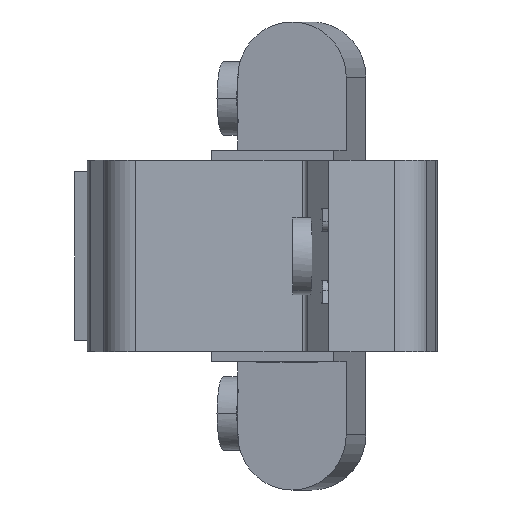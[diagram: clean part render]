
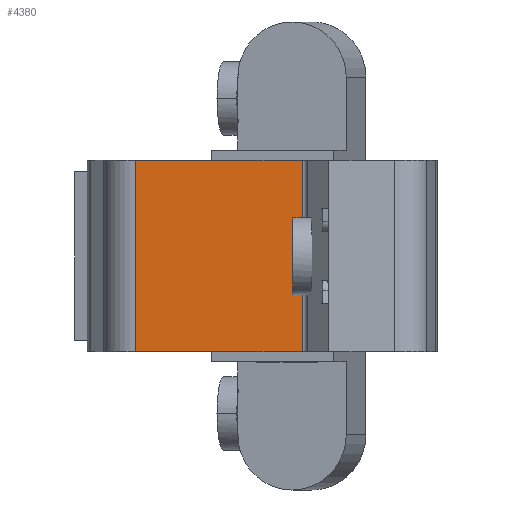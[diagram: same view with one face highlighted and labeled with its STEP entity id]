
A CAD part, left-side view. The second image highlights one B-rep face of the part: STEP entity #4380.
In plain terms, the highlighted planar face has unit normal (-1, 0.033, 0).
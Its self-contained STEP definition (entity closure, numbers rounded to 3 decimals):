
#4 = DIRECTION ( 'NONE',  ( 0., 0., 1. ) ) ;
#19 = LINE ( 'NONE', #2578, #7039 ) ;
#32 = ORIENTED_EDGE ( 'NONE', *, *, #7860, .T. ) ;
#33 = VERTEX_POINT ( 'NONE', #924 ) ;
#194 = VERTEX_POINT ( 'NONE', #3743 ) ;
#198 = CARTESIAN_POINT ( 'NONE',  ( -29.78, 2.72, 8.5 ) ) ;
#211 = DIRECTION ( 'NONE',  ( -0.033, -0.999, 0. ) ) ;
#238 = VERTEX_POINT ( 'NONE', #3111 ) ;
#360 = ORIENTED_EDGE ( 'NONE', *, *, #4059, .F. ) ;
#924 = CARTESIAN_POINT ( 'NONE',  ( -29.298, 17.506, 8.5 ) ) ;
#1244 = VERTEX_POINT ( 'NONE', #198 ) ;
#1269 = VERTEX_POINT ( 'NONE', #4616 ) ;
#1409 = FACE_OUTER_BOUND ( 'NONE', #7732, .T. ) ;
#1504 = CARTESIAN_POINT ( 'NONE',  ( -29.298, 17.506, -44.14 ) ) ;
#1918 = CARTESIAN_POINT ( 'NONE',  ( -29.298, 16.513, -6.7 ) ) ;
#1977 = CARTESIAN_POINT ( 'NONE',  ( -29.78, 2.72, -6.7 ) ) ;
#2111 = ORIENTED_EDGE ( 'NONE', *, *, #4728, .T. ) ;
#2578 = CARTESIAN_POINT ( 'NONE',  ( -29.298, 16.513, 6.7 ) ) ;
#2718 = DIRECTION ( 'NONE',  ( -0.999, 0.033, 0. ) ) ;
#3007 = VECTOR ( 'NONE', #5488, 1000. ) ;
#3111 = CARTESIAN_POINT ( 'NONE',  ( -29.78, 2.72, 6.7 ) ) ;
#3137 = VECTOR ( 'NONE', #8216, 1000. ) ;
#3222 = ORIENTED_EDGE ( 'NONE', *, *, #7652, .F. ) ;
#3573 = DIRECTION ( 'NONE',  ( 0., 0., -1. ) ) ;
#3644 = VECTOR ( 'NONE', #7226, 1000. ) ;
#3649 = VECTOR ( 'NONE', #4, 1000. ) ;
#3743 = CARTESIAN_POINT ( 'NONE',  ( -29.78, 2.721, -6.7 ) ) ;
#3836 = ORIENTED_EDGE ( 'NONE', *, *, #5515, .F. ) ;
#3859 = VERTEX_POINT ( 'NONE', #3956 ) ;
#3917 = DIRECTION ( 'NONE',  ( -0.033, -0.999, 0. ) ) ;
#3952 = EDGE_CURVE ( 'NONE', #3859, #6974, #4586, .T. ) ;
#3956 = CARTESIAN_POINT ( 'NONE',  ( -29.298, 17.506, -8.5 ) ) ;
#3987 = PLANE ( 'NONE',  #7394 ) ;
#4008 = EDGE_CURVE ( 'NONE', #33, #1244, #7892, .T. ) ;
#4050 = ORIENTED_EDGE ( 'NONE', *, *, #4008, .F. ) ;
#4059 = EDGE_CURVE ( 'NONE', #3859, #33, #7269, .T. ) ;
#4117 = CARTESIAN_POINT ( 'NONE',  ( -29.78, 2.72, 8.5 ) ) ;
#4182 = VECTOR ( 'NONE', #3917, 1000. ) ;
#4380 = ADVANCED_FACE ( 'NONE', ( #1409 ), #3987, .T. ) ;
#4454 = ORIENTED_EDGE ( 'NONE', *, *, #3952, .T. ) ;
#4522 = DIRECTION ( 'NONE',  ( 0.035, 0.999, 0. ) ) ;
#4586 = LINE ( 'NONE', #5128, #4182 ) ;
#4616 = CARTESIAN_POINT ( 'NONE',  ( -29.78, 2.721, 6.7 ) ) ;
#4717 = VECTOR ( 'NONE', #211, 1000. ) ;
#4728 = EDGE_CURVE ( 'NONE', #238, #1244, #6519, .T. ) ;
#4771 = CARTESIAN_POINT ( 'NONE',  ( -29.78, 2.72, -8.5 ) ) ;
#5126 = VECTOR ( 'NONE', #3573, 1000. ) ;
#5128 = CARTESIAN_POINT ( 'NONE',  ( -29.78, 2.72, -8.5 ) ) ;
#5208 = CARTESIAN_POINT ( 'NONE',  ( -29.78, 2.72, -8.502 ) ) ;
#5286 = DIRECTION ( 'NONE',  ( -0.033, -0.999, 0. ) ) ;
#5488 = DIRECTION ( 'NONE',  ( 0., 0., 1. ) ) ;
#5515 = EDGE_CURVE ( 'NONE', #7029, #6974, #6226, .T. ) ;
#6226 = LINE ( 'NONE', #6765, #5126 ) ;
#6519 = LINE ( 'NONE', #5208, #3649 ) ;
#6548 = CARTESIAN_POINT ( 'NONE',  ( -29.298, 17.506, -44.14 ) ) ;
#6705 = LINE ( 'NONE', #6830, #3007 ) ;
#6765 = CARTESIAN_POINT ( 'NONE',  ( -29.78, 2.72, 8.502 ) ) ;
#6830 = CARTESIAN_POINT ( 'NONE',  ( -29.78, 2.721, -44.14 ) ) ;
#6974 = VERTEX_POINT ( 'NONE', #4771 ) ;
#7029 = VERTEX_POINT ( 'NONE', #1977 ) ;
#7039 = VECTOR ( 'NONE', #4522, 1000. ) ;
#7226 = DIRECTION ( 'NONE',  ( 0., 0., 1. ) ) ;
#7269 = LINE ( 'NONE', #1504, #3644 ) ;
#7394 = AXIS2_PLACEMENT_3D ( 'NONE', #6548, #2718, #5286 ) ;
#7587 = LINE ( 'NONE', #1918, #3137 ) ;
#7652 = EDGE_CURVE ( 'NONE', #194, #7029, #7587, .T. ) ;
#7732 = EDGE_LOOP ( 'NONE', ( #360, #4454, #3836, #3222, #32, #8254, #2111, #4050 ) ) ;
#7860 = EDGE_CURVE ( 'NONE', #194, #1269, #6705, .T. ) ;
#7892 = LINE ( 'NONE', #4117, #4717 ) ;
#8001 = EDGE_CURVE ( 'NONE', #238, #1269, #19, .T. ) ;
#8216 = DIRECTION ( 'NONE',  ( -0.035, -0.999, 0. ) ) ;
#8254 = ORIENTED_EDGE ( 'NONE', *, *, #8001, .F. ) ;
